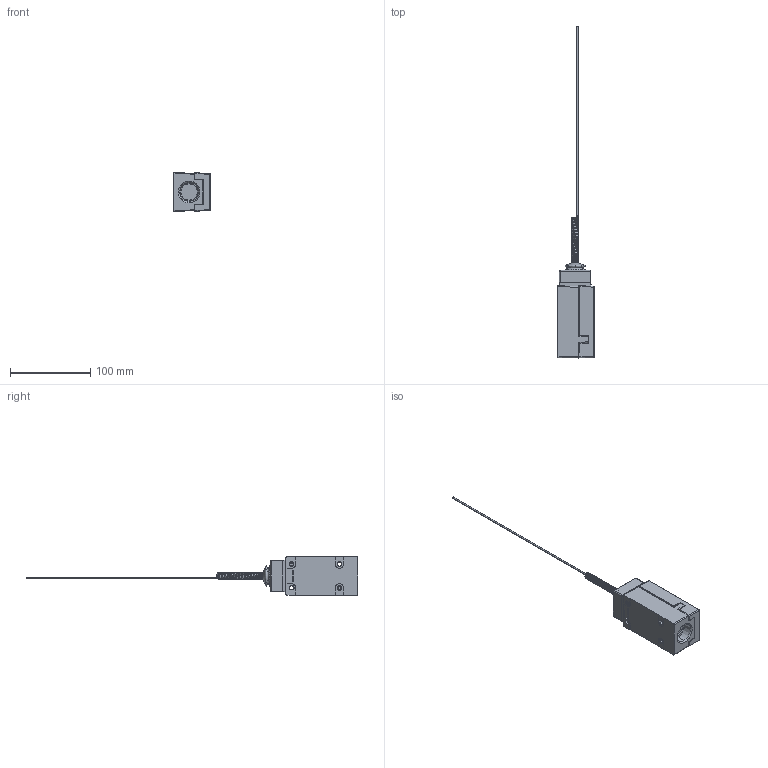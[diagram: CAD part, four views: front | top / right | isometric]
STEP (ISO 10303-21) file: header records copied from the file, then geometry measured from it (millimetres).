
FILE_DESCRIPTION((''),'2;1');
FILE_NAME('LSJ2B-7M','2012-12-06T',('E522935'),(''),'PRO/ENGINEER BY PARAMETRIC TECHNOLOGY CORPORATION, 2009460','PRO/ENGINEER BY PARAMETRIC TECHNOLOGY CORPORATION, 2009460','');
FILE_SCHEMA(('CONFIG_CONTROL_DESIGN'));
Length unit declared in the file: inch
Products named in the file (1): LSJ2B-7M
Bounding box: 45.34 x 412.72 x 47.62 mm (x, y, z)
Volume: 212830 mm3; surface area: 37143.8 mm2
Topology: 1 solids, 3 shells, 592 faces, 1567 edges, 972 vertices
Faces by surface type: plane 329, cylinder 165, cone 47, sphere 20, bspline 20, torus 9, revolution 2
Entity records: 29651 total; most frequent: CARTESIAN_POINT 15158, ORIENTED_EDGE 3118, DIRECTION 2922, EDGE_CURVE 1559, AXIS2_PLACEMENT_3D 1027, VERTEX_POINT 972, VECTOR 866, LINE 866
